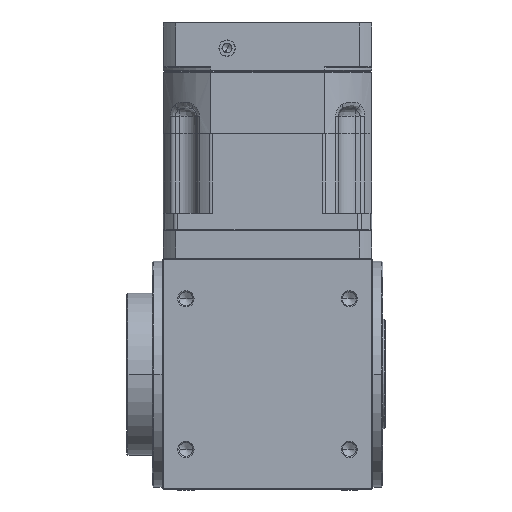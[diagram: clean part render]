
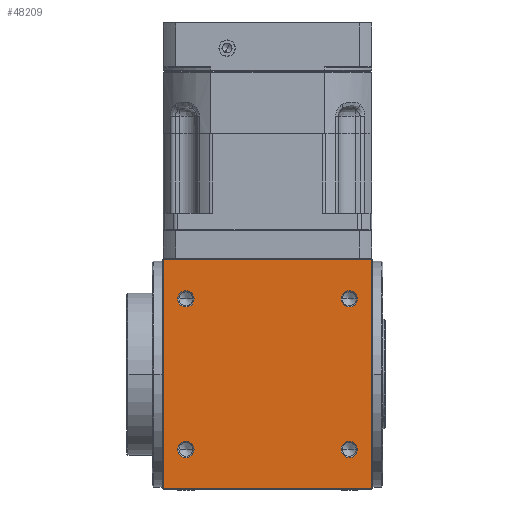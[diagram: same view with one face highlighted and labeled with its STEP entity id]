
A CAD part, front view. The second image highlights one B-rep face of the part: STEP entity #48209.
In plain terms, the highlighted planar face has unit normal (0, -1, 0) as drawn and (0, 0, -1) by its records, which use the part's own axes.
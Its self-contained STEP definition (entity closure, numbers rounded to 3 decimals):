
#37 = EDGE_CURVE ( 'NONE', #49807, #100665, #42020, .T. ) ;
#286 = CARTESIAN_POINT ( 'NONE',  ( 91., -99., -100. ) ) ;
#394 = DIRECTION ( 'NONE',  ( 0., 0., -1. ) ) ;
#749 = CARTESIAN_POINT ( 'NONE',  ( -90., 99., -100. ) ) ;
#752 = CARTESIAN_POINT ( 'NONE',  ( 90., 0., -100. ) ) ;
#990 = EDGE_CURVE ( 'NONE', #32852, #77487, #75316, .T. ) ;
#1711 = CARTESIAN_POINT ( 'NONE',  ( 63.5, 65., -100. ) ) ;
#1884 = DIRECTION ( 'NONE',  ( 0., 0., 1. ) ) ;
#4235 = CARTESIAN_POINT ( 'NONE',  ( 91., 99., -100. ) ) ;
#4306 = AXIS2_PLACEMENT_3D ( 'NONE', #72992, #23443, #81346 ) ;
#5052 = CARTESIAN_POINT ( 'NONE',  ( -90., 100., -100. ) ) ;
#6572 = CARTESIAN_POINT ( 'NONE',  ( -63.5, 65., -100. ) ) ;
#8047 = ORIENTED_EDGE ( 'NONE', *, *, #37, .F. ) ;
#8573 = EDGE_LOOP ( 'NONE', ( #63696, #10177 ) ) ;
#8618 = DIRECTION ( 'NONE',  ( 1., 0., 0. ) ) ;
#9070 = FACE_BOUND ( 'NONE', #31467, .T. ) ;
#9764 = AXIS2_PLACEMENT_3D ( 'NONE', #40581, #98517, #48888 ) ;
#10038 = VERTEX_POINT ( 'NONE', #80603 ) ;
#10177 = ORIENTED_EDGE ( 'NONE', *, *, #15594, .F. ) ;
#10513 = AXIS2_PLACEMENT_3D ( 'NONE', #82897, #33318, #91197 ) ;
#15416 = EDGE_CURVE ( 'NONE', #17724, #100665, #92513, .T. ) ;
#15594 = EDGE_CURVE ( 'NONE', #70349, #31623, #89916, .T. ) ;
#16242 = EDGE_LOOP ( 'NONE', ( #97009, #25670 ) ) ;
#17024 = DIRECTION ( 'NONE',  ( 0., 1., 0. ) ) ;
#17724 = VERTEX_POINT ( 'NONE', #749 ) ;
#20504 = VERTEX_POINT ( 'NONE', #103816 ) ;
#21659 = LINE ( 'NONE', #286, #107189 ) ;
#22024 = CARTESIAN_POINT ( 'NONE',  ( -77.5, -65., -100. ) ) ;
#23371 = CARTESIAN_POINT ( 'NONE',  ( -70.5, -65., -100. ) ) ;
#23443 = DIRECTION ( 'NONE',  ( 0., 0., -1. ) ) ;
#25670 = ORIENTED_EDGE ( 'NONE', *, *, #990, .F. ) ;
#26014 = EDGE_CURVE ( 'NONE', #28203, #10038, #72077, .T. ) ;
#26888 = DIRECTION ( 'NONE',  ( 0., 0., -1. ) ) ;
#28203 = VERTEX_POINT ( 'NONE', #22024 ) ;
#29062 = VECTOR ( 'NONE', #87102, 1000. ) ;
#30152 = CIRCLE ( 'NONE', #9764, 7. ) ;
#30762 = CARTESIAN_POINT ( 'NONE',  ( 70.5, -72., -100. ) ) ;
#31083 = FACE_BOUND ( 'NONE', #8573, .T. ) ;
#31116 = EDGE_CURVE ( 'NONE', #31623, #70349, #37497, .T. ) ;
#31467 = EDGE_LOOP ( 'NONE', ( #91343, #78174 ) ) ;
#31623 = VERTEX_POINT ( 'NONE', #1711 ) ;
#31672 = DIRECTION ( 'NONE',  ( -1., 0., 0. ) ) ;
#32852 = VERTEX_POINT ( 'NONE', #6572 ) ;
#33318 = DIRECTION ( 'NONE',  ( 0., 0., -1. ) ) ;
#35714 = EDGE_CURVE ( 'NONE', #67618, #20504, #30152, .T. ) ;
#36861 = VERTEX_POINT ( 'NONE', #45084 ) ;
#37497 = CIRCLE ( 'NONE', #10513, 7. ) ;
#38600 = CIRCLE ( 'NONE', #57211, 7. ) ;
#40581 = CARTESIAN_POINT ( 'NONE',  ( 70.5, -65., -100. ) ) ;
#42020 = LINE ( 'NONE', #752, #83435 ) ;
#42300 = CARTESIAN_POINT ( 'NONE',  ( -77.5, 65., -100. ) ) ;
#43350 = CARTESIAN_POINT ( 'NONE',  ( -70.5, -65., -100. ) ) ;
#43833 = AXIS2_PLACEMENT_3D ( 'NONE', #43350, #101301, #51674 ) ;
#45084 = CARTESIAN_POINT ( 'NONE',  ( -90., -99., -100. ) ) ;
#47299 = CARTESIAN_POINT ( 'NONE',  ( 70.5, 65., -100. ) ) ;
#47763 = AXIS2_PLACEMENT_3D ( 'NONE', #23371, #81274, #31672 ) ;
#48209 = ADVANCED_FACE ( 'NONE', ( #104979, #94561, #31083, #72513, #9070 ), #67675, .F. ) ;
#48888 = DIRECTION ( 'NONE',  ( 0., 1., 0. ) ) ;
#49807 = VERTEX_POINT ( 'NONE', #94494 ) ;
#50003 = CARTESIAN_POINT ( 'NONE',  ( -70.5, 65., -100. ) ) ;
#50220 = EDGE_CURVE ( 'NONE', #36861, #17724, #87484, .T. ) ;
#51380 = CIRCLE ( 'NONE', #47763, 7. ) ;
#51491 = CARTESIAN_POINT ( 'NONE',  ( 91., 100., -100. ) ) ;
#51674 = DIRECTION ( 'NONE',  ( -1., 0., 0. ) ) ;
#52080 = ORIENTED_EDGE ( 'NONE', *, *, #84522, .F. ) ;
#52512 = EDGE_LOOP ( 'NONE', ( #76811, #91585, #66032, #8047 ) ) ;
#53936 = AXIS2_PLACEMENT_3D ( 'NONE', #76446, #26888, #84755 ) ;
#55571 = CIRCLE ( 'NONE', #53936, 7. ) ;
#55630 = DIRECTION ( 'NONE',  ( -1., 0., 0. ) ) ;
#56515 = AXIS2_PLACEMENT_3D ( 'NONE', #47299, #105256, #55630 ) ;
#57211 = AXIS2_PLACEMENT_3D ( 'NONE', #50003, #394, #58298 ) ;
#58298 = DIRECTION ( 'NONE',  ( -1., 0., 0. ) ) ;
#59771 = DIRECTION ( 'NONE',  ( 0., -1., 0. ) ) ;
#60230 = CARTESIAN_POINT ( 'NONE',  ( 77.5, 65., -100. ) ) ;
#63696 = ORIENTED_EDGE ( 'NONE', *, *, #31116, .F. ) ;
#64814 = EDGE_CURVE ( 'NONE', #77487, #32852, #38600, .T. ) ;
#65456 = VECTOR ( 'NONE', #71632, 1000. ) ;
#66032 = ORIENTED_EDGE ( 'NONE', *, *, #15416, .T. ) ;
#67618 = VERTEX_POINT ( 'NONE', #30762 ) ;
#67675 = PLANE ( 'NONE',  #74106 ) ;
#70349 = VERTEX_POINT ( 'NONE', #60230 ) ;
#71337 = EDGE_LOOP ( 'NONE', ( #52080, #104319 ) ) ;
#71632 = DIRECTION ( 'NONE',  ( 0., 1., 0. ) ) ;
#72077 = CIRCLE ( 'NONE', #43833, 7. ) ;
#72513 = FACE_BOUND ( 'NONE', #16242, .T. ) ;
#72992 = CARTESIAN_POINT ( 'NONE',  ( -70.5, 65., -100. ) ) ;
#73756 = EDGE_CURVE ( 'NONE', #10038, #28203, #51380, .T. ) ;
#74106 = AXIS2_PLACEMENT_3D ( 'NONE', #51491, #1884, #59771 ) ;
#75316 = CIRCLE ( 'NONE', #4306, 7. ) ;
#76446 = CARTESIAN_POINT ( 'NONE',  ( 70.5, -65., -100. ) ) ;
#76811 = ORIENTED_EDGE ( 'NONE', *, *, #77409, .F. ) ;
#77409 = EDGE_CURVE ( 'NONE', #36861, #49807, #21659, .T. ) ;
#77487 = VERTEX_POINT ( 'NONE', #42300 ) ;
#78174 = ORIENTED_EDGE ( 'NONE', *, *, #73756, .F. ) ;
#80603 = CARTESIAN_POINT ( 'NONE',  ( -63.5, -65., -100. ) ) ;
#81274 = DIRECTION ( 'NONE',  ( 0., 0., -1. ) ) ;
#81346 = DIRECTION ( 'NONE',  ( -1., 0., 0. ) ) ;
#82897 = CARTESIAN_POINT ( 'NONE',  ( 70.5, 65., -100. ) ) ;
#83435 = VECTOR ( 'NONE', #17024, 1000. ) ;
#84522 = EDGE_CURVE ( 'NONE', #20504, #67618, #55571, .T. ) ;
#84755 = DIRECTION ( 'NONE',  ( 0., 1., 0. ) ) ;
#87102 = DIRECTION ( 'NONE',  ( 1., 0., 0. ) ) ;
#87484 = LINE ( 'NONE', #5052, #65456 ) ;
#89916 = CIRCLE ( 'NONE', #56515, 7. ) ;
#91197 = DIRECTION ( 'NONE',  ( -1., 0., 0. ) ) ;
#91343 = ORIENTED_EDGE ( 'NONE', *, *, #26014, .F. ) ;
#91585 = ORIENTED_EDGE ( 'NONE', *, *, #50220, .T. ) ;
#92513 = LINE ( 'NONE', #4235, #29062 ) ;
#94494 = CARTESIAN_POINT ( 'NONE',  ( 90., -99., -100. ) ) ;
#94561 = FACE_BOUND ( 'NONE', #71337, .T. ) ;
#95745 = CARTESIAN_POINT ( 'NONE',  ( 90., 99., -100. ) ) ;
#97009 = ORIENTED_EDGE ( 'NONE', *, *, #64814, .F. ) ;
#98517 = DIRECTION ( 'NONE',  ( 0., 0., -1. ) ) ;
#100665 = VERTEX_POINT ( 'NONE', #95745 ) ;
#101301 = DIRECTION ( 'NONE',  ( 0., 0., -1. ) ) ;
#103816 = CARTESIAN_POINT ( 'NONE',  ( 70.5, -58., -100. ) ) ;
#104319 = ORIENTED_EDGE ( 'NONE', *, *, #35714, .F. ) ;
#104979 = FACE_OUTER_BOUND ( 'NONE', #52512, .T. ) ;
#105256 = DIRECTION ( 'NONE',  ( 0., 0., -1. ) ) ;
#107189 = VECTOR ( 'NONE', #8618, 1000. ) ;
